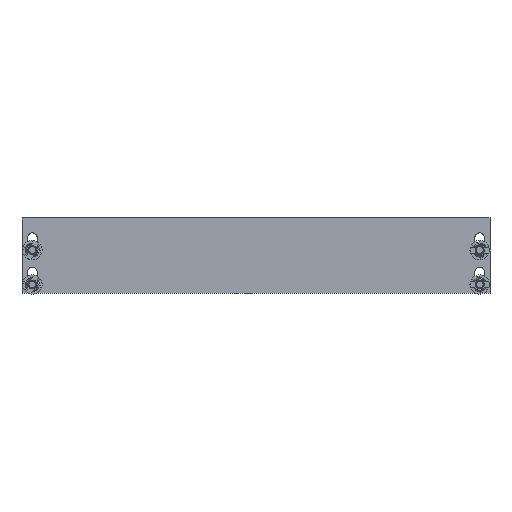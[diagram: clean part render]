
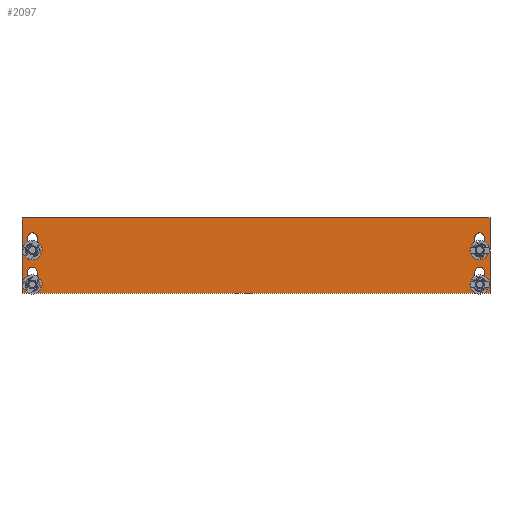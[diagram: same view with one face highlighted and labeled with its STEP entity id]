
A CAD part, front view. The second image highlights one B-rep face of the part: STEP entity #2097.
In plain terms, the highlighted planar face has unit normal (0, -1, 0) as drawn and (0, 0, -1) by its records, which use the part's own axes.
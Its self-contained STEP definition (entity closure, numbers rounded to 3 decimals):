
#1234 = VERTEX_POINT('',#1235);
#1235 = CARTESIAN_POINT('',(170.,16.5,-36.));
#1241 = EDGE_CURVE('',#1242,#1234,#1244,.T.);
#1242 = VERTEX_POINT('',#1243);
#1243 = CARTESIAN_POINT('',(-170.,16.5,-36.));
#1244 = LINE('',#1245,#1246);
#1245 = CARTESIAN_POINT('',(0.,16.5,-36.));
#1246 = VECTOR('',#1247,1.);
#1247 = DIRECTION('',(1.,-0.,-0.));
#1976 = VERTEX_POINT('',#1977);
#1977 = CARTESIAN_POINT('',(-170.,12.9,-36.));
#1992 = EDGE_CURVE('',#1976,#1242,#1993,.T.);
#1993 = LINE('',#1994,#1995);
#1994 = CARTESIAN_POINT('',(-170.,12.9,-36.));
#1995 = VECTOR('',#1996,1.);
#1996 = DIRECTION('',(-0.,1.,0.));
#2016 = VERTEX_POINT('',#2017);
#2017 = CARTESIAN_POINT('',(170.,12.9,-36.));
#2023 = EDGE_CURVE('',#2016,#1234,#2024,.T.);
#2024 = LINE('',#2025,#2026);
#2025 = CARTESIAN_POINT('',(170.,0.,-36.));
#2026 = VECTOR('',#2027,1.);
#2027 = DIRECTION('',(0.,1.,0.));
#2039 = EDGE_CURVE('',#2040,#2016,#2042,.T.);
#2040 = VERTEX_POINT('',#2041);
#2041 = CARTESIAN_POINT('',(170.,-38.5,-36.));
#2042 = LINE('',#2043,#2044);
#2043 = CARTESIAN_POINT('',(170.,13.5,-36.));
#2044 = VECTOR('',#2045,1.);
#2045 = DIRECTION('',(-0.,1.,0.));
#2079 = EDGE_CURVE('',#1976,#2080,#2082,.T.);
#2080 = VERTEX_POINT('',#2081);
#2081 = CARTESIAN_POINT('',(-170.,-38.5,-36.));
#2082 = LINE('',#2083,#2084);
#2083 = CARTESIAN_POINT('',(-170.,-38.5,-36.));
#2084 = VECTOR('',#2085,1.);
#2085 = DIRECTION('',(0.,-1.,0.));
#2097 = ADVANCED_FACE('',(#2098,#2134,#2170,#2206,#2242),#2255,.T.);
#2098 = FACE_BOUND('',#2099,.T.);
#2099 = EDGE_LOOP('',(#2100,#2111,#2119,#2128));
#2100 = ORIENTED_EDGE('',*,*,#2101,.F.);
#2101 = EDGE_CURVE('',#2102,#2104,#2106,.T.);
#2102 = VERTEX_POINT('',#2103);
#2103 = CARTESIAN_POINT('',(159.,-23.,-36.));
#2104 = VERTEX_POINT('',#2105);
#2105 = CARTESIAN_POINT('',(166.,-23.,-36.));
#2106 = CIRCLE('',#2107,3.5);
#2107 = AXIS2_PLACEMENT_3D('',#2108,#2109,#2110);
#2108 = CARTESIAN_POINT('',(162.5,-23.,-36.));
#2109 = DIRECTION('',(0.,0.,-1.));
#2110 = DIRECTION('',(0.,1.,0.));
#2111 = ORIENTED_EDGE('',*,*,#2112,.F.);
#2112 = EDGE_CURVE('',#2113,#2102,#2115,.T.);
#2113 = VERTEX_POINT('',#2114);
#2114 = CARTESIAN_POINT('',(159.,-32.,-36.));
#2115 = LINE('',#2116,#2117);
#2116 = CARTESIAN_POINT('',(159.,0.,-36.));
#2117 = VECTOR('',#2118,1.);
#2118 = DIRECTION('',(0.,1.,0.));
#2119 = ORIENTED_EDGE('',*,*,#2120,.F.);
#2120 = EDGE_CURVE('',#2121,#2113,#2123,.T.);
#2121 = VERTEX_POINT('',#2122);
#2122 = CARTESIAN_POINT('',(166.,-32.,-36.));
#2123 = CIRCLE('',#2124,3.5);
#2124 = AXIS2_PLACEMENT_3D('',#2125,#2126,#2127);
#2125 = CARTESIAN_POINT('',(162.5,-32.,-36.));
#2126 = DIRECTION('',(0.,0.,-1.));
#2127 = DIRECTION('',(0.,1.,0.));
#2128 = ORIENTED_EDGE('',*,*,#2129,.F.);
#2129 = EDGE_CURVE('',#2104,#2121,#2130,.T.);
#2130 = LINE('',#2131,#2132);
#2131 = CARTESIAN_POINT('',(166.,0.,-36.));
#2132 = VECTOR('',#2133,1.);
#2133 = DIRECTION('',(0.,-1.,0.));
#2134 = FACE_BOUND('',#2135,.T.);
#2135 = EDGE_LOOP('',(#2136,#2147,#2155,#2164));
#2136 = ORIENTED_EDGE('',*,*,#2137,.F.);
#2137 = EDGE_CURVE('',#2138,#2140,#2142,.T.);
#2138 = VERTEX_POINT('',#2139);
#2139 = CARTESIAN_POINT('',(-166.,-23.,-36.));
#2140 = VERTEX_POINT('',#2141);
#2141 = CARTESIAN_POINT('',(-159.,-23.,-36.));
#2142 = CIRCLE('',#2143,3.5);
#2143 = AXIS2_PLACEMENT_3D('',#2144,#2145,#2146);
#2144 = CARTESIAN_POINT('',(-162.5,-23.,-36.));
#2145 = DIRECTION('',(0.,0.,-1.));
#2146 = DIRECTION('',(0.,1.,0.));
#2147 = ORIENTED_EDGE('',*,*,#2148,.F.);
#2148 = EDGE_CURVE('',#2149,#2138,#2151,.T.);
#2149 = VERTEX_POINT('',#2150);
#2150 = CARTESIAN_POINT('',(-166.,-32.,-36.));
#2151 = LINE('',#2152,#2153);
#2152 = CARTESIAN_POINT('',(-166.,0.,-36.));
#2153 = VECTOR('',#2154,1.);
#2154 = DIRECTION('',(0.,1.,0.));
#2155 = ORIENTED_EDGE('',*,*,#2156,.F.);
#2156 = EDGE_CURVE('',#2157,#2149,#2159,.T.);
#2157 = VERTEX_POINT('',#2158);
#2158 = CARTESIAN_POINT('',(-159.,-32.,-36.));
#2159 = CIRCLE('',#2160,3.5);
#2160 = AXIS2_PLACEMENT_3D('',#2161,#2162,#2163);
#2161 = CARTESIAN_POINT('',(-162.5,-32.,-36.));
#2162 = DIRECTION('',(0.,0.,-1.));
#2163 = DIRECTION('',(0.,1.,0.));
#2164 = ORIENTED_EDGE('',*,*,#2165,.F.);
#2165 = EDGE_CURVE('',#2140,#2157,#2166,.T.);
#2166 = LINE('',#2167,#2168);
#2167 = CARTESIAN_POINT('',(-159.,0.,-36.));
#2168 = VECTOR('',#2169,1.);
#2169 = DIRECTION('',(0.,-1.,0.));
#2170 = FACE_BOUND('',#2171,.T.);
#2171 = EDGE_LOOP('',(#2172,#2183,#2191,#2200));
#2172 = ORIENTED_EDGE('',*,*,#2173,.F.);
#2173 = EDGE_CURVE('',#2174,#2176,#2178,.T.);
#2174 = VERTEX_POINT('',#2175);
#2175 = CARTESIAN_POINT('',(159.,2.,-36.));
#2176 = VERTEX_POINT('',#2177);
#2177 = CARTESIAN_POINT('',(166.,2.,-36.));
#2178 = CIRCLE('',#2179,3.5);
#2179 = AXIS2_PLACEMENT_3D('',#2180,#2181,#2182);
#2180 = CARTESIAN_POINT('',(162.5,2.,-36.));
#2181 = DIRECTION('',(0.,0.,-1.));
#2182 = DIRECTION('',(0.,1.,0.));
#2183 = ORIENTED_EDGE('',*,*,#2184,.F.);
#2184 = EDGE_CURVE('',#2185,#2174,#2187,.T.);
#2185 = VERTEX_POINT('',#2186);
#2186 = CARTESIAN_POINT('',(159.,-7.,-36.));
#2187 = LINE('',#2188,#2189);
#2188 = CARTESIAN_POINT('',(159.,0.,-36.));
#2189 = VECTOR('',#2190,1.);
#2190 = DIRECTION('',(0.,1.,0.));
#2191 = ORIENTED_EDGE('',*,*,#2192,.F.);
#2192 = EDGE_CURVE('',#2193,#2185,#2195,.T.);
#2193 = VERTEX_POINT('',#2194);
#2194 = CARTESIAN_POINT('',(166.,-7.,-36.));
#2195 = CIRCLE('',#2196,3.5);
#2196 = AXIS2_PLACEMENT_3D('',#2197,#2198,#2199);
#2197 = CARTESIAN_POINT('',(162.5,-7.,-36.));
#2198 = DIRECTION('',(0.,0.,-1.));
#2199 = DIRECTION('',(0.,1.,0.));
#2200 = ORIENTED_EDGE('',*,*,#2201,.F.);
#2201 = EDGE_CURVE('',#2176,#2193,#2202,.T.);
#2202 = LINE('',#2203,#2204);
#2203 = CARTESIAN_POINT('',(166.,0.,-36.));
#2204 = VECTOR('',#2205,1.);
#2205 = DIRECTION('',(0.,-1.,0.));
#2206 = FACE_BOUND('',#2207,.T.);
#2207 = EDGE_LOOP('',(#2208,#2219,#2227,#2236));
#2208 = ORIENTED_EDGE('',*,*,#2209,.F.);
#2209 = EDGE_CURVE('',#2210,#2212,#2214,.T.);
#2210 = VERTEX_POINT('',#2211);
#2211 = CARTESIAN_POINT('',(-166.,2.,-36.));
#2212 = VERTEX_POINT('',#2213);
#2213 = CARTESIAN_POINT('',(-159.,2.,-36.));
#2214 = CIRCLE('',#2215,3.5);
#2215 = AXIS2_PLACEMENT_3D('',#2216,#2217,#2218);
#2216 = CARTESIAN_POINT('',(-162.5,2.,-36.));
#2217 = DIRECTION('',(0.,0.,-1.));
#2218 = DIRECTION('',(0.,1.,0.));
#2219 = ORIENTED_EDGE('',*,*,#2220,.F.);
#2220 = EDGE_CURVE('',#2221,#2210,#2223,.T.);
#2221 = VERTEX_POINT('',#2222);
#2222 = CARTESIAN_POINT('',(-166.,-7.,-36.));
#2223 = LINE('',#2224,#2225);
#2224 = CARTESIAN_POINT('',(-166.,0.,-36.));
#2225 = VECTOR('',#2226,1.);
#2226 = DIRECTION('',(0.,1.,0.));
#2227 = ORIENTED_EDGE('',*,*,#2228,.F.);
#2228 = EDGE_CURVE('',#2229,#2221,#2231,.T.);
#2229 = VERTEX_POINT('',#2230);
#2230 = CARTESIAN_POINT('',(-159.,-7.,-36.));
#2231 = CIRCLE('',#2232,3.5);
#2232 = AXIS2_PLACEMENT_3D('',#2233,#2234,#2235);
#2233 = CARTESIAN_POINT('',(-162.5,-7.,-36.));
#2234 = DIRECTION('',(0.,0.,-1.));
#2235 = DIRECTION('',(0.,1.,0.));
#2236 = ORIENTED_EDGE('',*,*,#2237,.F.);
#2237 = EDGE_CURVE('',#2212,#2229,#2238,.T.);
#2238 = LINE('',#2239,#2240);
#2239 = CARTESIAN_POINT('',(-159.,0.,-36.));
#2240 = VECTOR('',#2241,1.);
#2241 = DIRECTION('',(0.,-1.,0.));
#2242 = FACE_BOUND('',#2243,.T.);
#2243 = EDGE_LOOP('',(#2244,#2245,#2246,#2247,#2248,#2249));
#2244 = ORIENTED_EDGE('',*,*,#2079,.F.);
#2245 = ORIENTED_EDGE('',*,*,#1992,.T.);
#2246 = ORIENTED_EDGE('',*,*,#1241,.T.);
#2247 = ORIENTED_EDGE('',*,*,#2023,.F.);
#2248 = ORIENTED_EDGE('',*,*,#2039,.F.);
#2249 = ORIENTED_EDGE('',*,*,#2250,.F.);
#2250 = EDGE_CURVE('',#2080,#2040,#2251,.T.);
#2251 = LINE('',#2252,#2253);
#2252 = CARTESIAN_POINT('',(170.,-38.5,-36.));
#2253 = VECTOR('',#2254,1.);
#2254 = DIRECTION('',(1.,0.,0.));
#2255 = PLANE('',#2256);
#2256 = AXIS2_PLACEMENT_3D('',#2257,#2258,#2259);
#2257 = CARTESIAN_POINT('',(0.,0.,-36.));
#2258 = DIRECTION('',(0.,0.,-1.));
#2259 = DIRECTION('',(0.,1.,0.));
